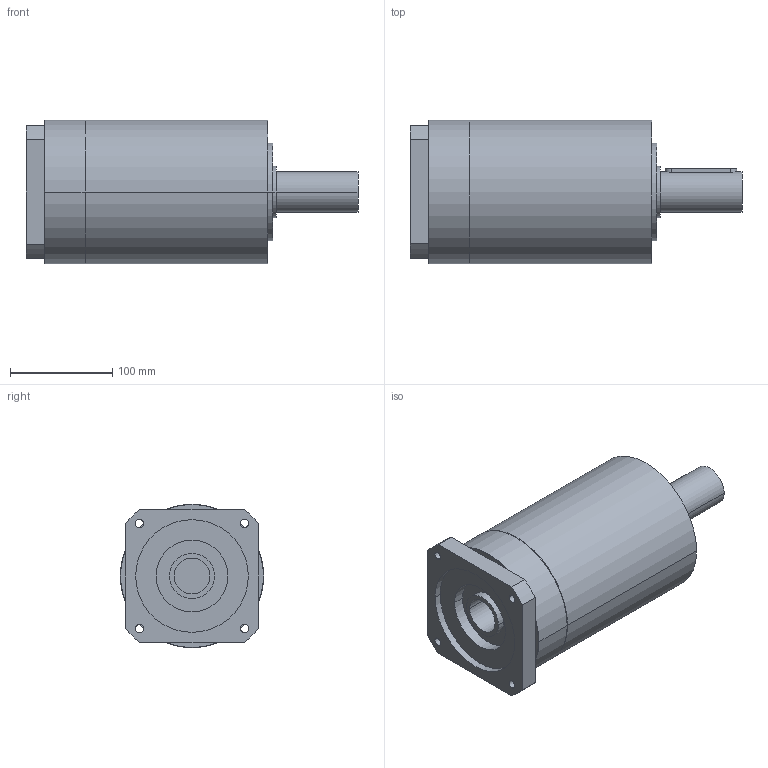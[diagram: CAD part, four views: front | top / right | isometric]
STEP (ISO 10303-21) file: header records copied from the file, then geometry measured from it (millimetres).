
FILE_DESCRIPTION(('CoCreate Modeling STEP Export'),'2;1');
FILE_NAME('GPR150_ig-9-12-16-20-28-35_40_B14_35_P08.stp','2014-08-19T17:04:18',(''),(''),'CoCreate Modeling STEP processor for AP214 (Solid Model)','CoCreate Modeling 16.00C 25-Feb-2009 (C) Parametric Technology GmbH','');
FILE_SCHEMA(('AUTOMOTIVE_DESIGN { 1 0 10303 214 1 1 1 1 }'));
Length unit declared in the file: millimetre
Products named in the file (2): GPR150_ig-9-12-16-20-28-35_40_B14_35_P08
Assembly tree (1 placements, depth 2):
  GPR150_ig-9-12-16-20-28-35_40_B14_35_P08
    GPR150_ig-9-12-16-20-28-35_40_B14_35_P08
Bounding box: 324 x 140 x 140 mm (x, y, z)
Volume: 3609429.7 mm3; surface area: 172787.2 mm2
Topology: 1 solids, 1 shells, 81 faces, 216 edges, 144 vertices
Faces by surface type: cylinder 42, plane 33, cone 6
Entity records: 2135 total; most frequent: ORIENTED_EDGE 428, CARTESIAN_POINT 405, DIRECTION 276, EDGE_CURVE 214, VERTEX_POINT 144, AXIS2_PLACEMENT_3D 103, EDGE_LOOP 98, FACE_OUTER_BOUND 81
